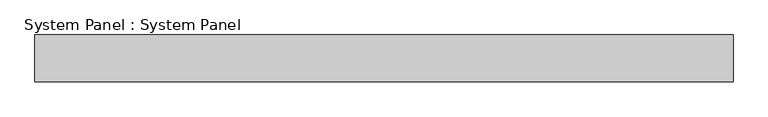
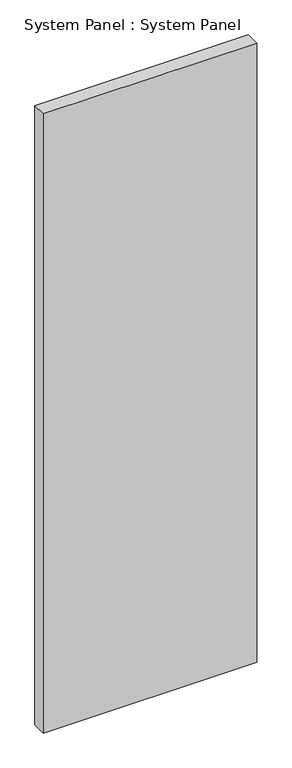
"""IFC4 building model written with IfcOpenShell, lengths in millimetres: plate geometry, System Panel : System Panel."""

from ifc_helpers import new_model, si_unit, origin, origin_with_axes, place, context, project, spatial, polyline, outline, extrude, source, transform, mapped, element, save


def system_panel_system_panel_8f48589a(model_context):
    return source(origin(), model_context, "Body", "SweptSolid", [
        extrude(outline(polyline([(760.129494, -50.8), (-760.129494, -50.8), (-760.129494, 50.8), (760.129494, 50.8), (760.129494, -50.8)])), origin_with_axes(), (0.0, 0.0, 1.0), 4660.9),
    ])


if __name__ == "__main__":
    model = new_model("IFC4")
    model_context = context("Model", 3, world=origin())
    ifc_project = project(units=[si_unit("LENGTHUNIT", "METRE", prefix="MILLI")], contexts=[model_context])
    site = spatial("IfcSite", under=ifc_project)
    building = spatial("IfcBuilding", under=site)
    placement = place(None, origin())
    system_panel_system_panel_shape = system_panel_system_panel_8f48589a(model_context)
    element("IfcPlate", 1, ObjectType="System Panel : System Panel", at=placement, inside=building, context=model_context, shape_type="MappedRepresentation", body=[
        mapped(system_panel_system_panel_shape, transform((0.0, 0.0, 0.0), x_axis=(1.0, 0.0, 0.0), y_axis=(0.0, 1.0, 0.0), z_axis=(0.0, 0.0, 1.0))),
    ])
    save(model, "model.ifc")
